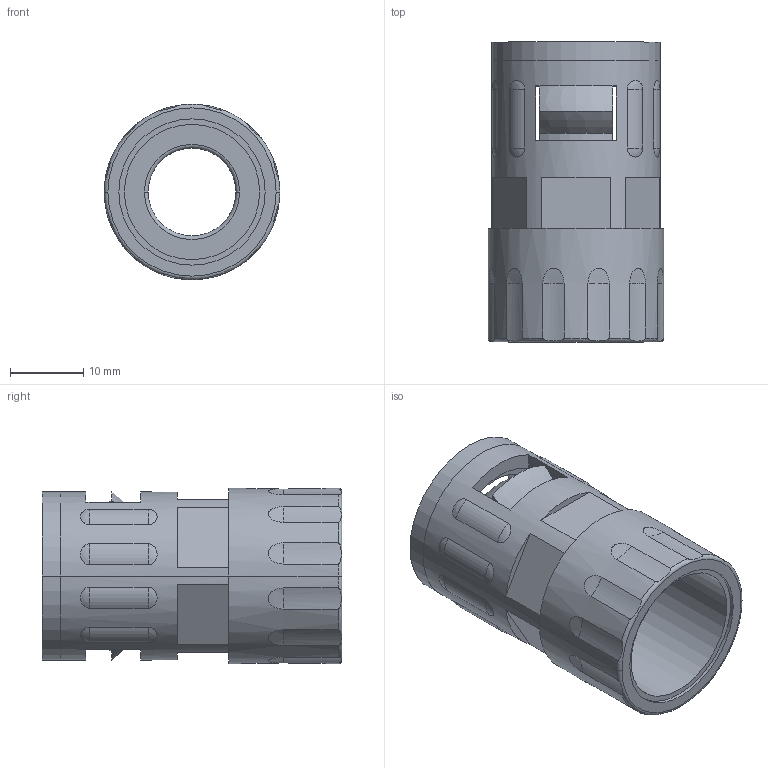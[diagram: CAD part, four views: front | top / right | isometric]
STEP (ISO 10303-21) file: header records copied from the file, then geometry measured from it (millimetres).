
FILE_DESCRIPTION (( 'STEP AP203' ), '1' );
FILE_NAME ('WQG2-M20-AD15.8.STEP', '2019-01-28T07:34:40', ( '' ), ( '' ), 'SwSTEP 2.0', 'SolidWorks 2016', '' );
FILE_SCHEMA (( 'CONFIG_CONTROL_DESIGN' ));
Length unit declared in the file: millimetre
Products named in the file (4): WQG2-M20-AD15.8; WQG2-M20-AD15.8-01; GFD-AD15.8; NSK-AD15.8
Assembly tree (3 placements, depth 2):
  WQG2-M20-AD15.8
    WQG2-M20-AD15.8-01
    GFD-AD15.8
    NSK-AD15.8
Bounding box: 24 x 41 x 24 mm (x, y, z)
Volume: 7749.1 mm3; surface area: 9170.3 mm2
Topology: 3 solids, 3 shells, 198 faces, 536 edges, 330 vertices
Faces by surface type: plane 60, cylinder 44, cone 44, sphere 28, torus 22
Entity records: 7102 total; most frequent: CARTESIAN_POINT 1946, DIRECTION 1052, ORIENTED_EDGE 960, EDGE_CURVE 480, AXIS2_PLACEMENT_3D 424, VERTEX_POINT 302, EDGE_LOOP 226, CIRCLE 220
